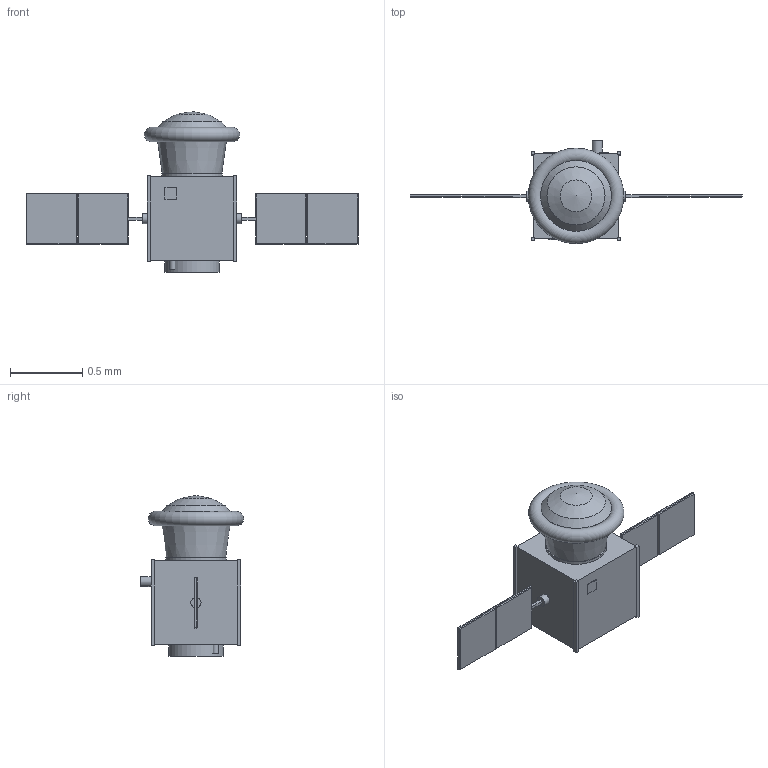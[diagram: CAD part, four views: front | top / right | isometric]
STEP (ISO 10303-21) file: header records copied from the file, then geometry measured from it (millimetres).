
FILE_DESCRIPTION(('Open CASCADE Model'),'2;1');
FILE_NAME('Open CASCADE Shape Model','2026-10-04T13:15:39',('Author'),( 'Open CASCADE'),'Open CASCADE STEP processor 7.9','Open CASCADE 7.9' ,'Unknown');
FILE_SCHEMA(('AUTOMOTIVE_DESIGN { 1 0 10303 214 1 1 1 1 }'));
Length unit declared in the file: millimetre
Products named in the file (45): SP-PLT; capsule_backshell; nose; heat_shield_packed; sample_drawer; sample_cassette_1; sample_cassette_2; sample_cassette_3; optical_window; capsule_avionics_and_hold_battery; parachute_canister; recovery_beacon; separation_interface; service_module_structure; corner_rail_-X-Y; corner_rail_-X+Y; corner_rail_+X-Y; corner_rail_+X+Y; radiator_+Y_face; experiment_instruments_microscope_pumps_reservoirs; propellant_tank_LMP-103S; battery; on-board_computer_and_radios; reaction_wheel_1; reaction_wheel_2; reaction_wheel_3; magnetorquer_1; magnetorquer_2; star_tracker; S-band_antenna; 22_N_thruster_1; 22_N_thruster_2; launch_separation_ring; array_drive_-X; yoke_-X; solar_panel_-X1; panel_frame_-X1; solar_panel_-X2; panel_frame_-X2; array_drive_+X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
Assembly tree (44 placements, depth 2):
  SP-PLT
    capsule_backshell
    nose
    heat_shield_packed
    sample_drawer
    sample_cassette_1
    sample_cassette_2
    sample_cassette_3
    optical_window
    capsule_avionics_and_hold_battery
    parachute_canister
    recovery_beacon
    separation_interface
    service_module_structure
    corner_rail_-X-Y
    corner_rail_-X+Y
    corner_rail_+X-Y
    corner_rail_+X+Y
    radiator_+Y_face
    experiment_instruments_microscope_pumps_reservoirs
    propellant_tank_LMP-103S
    battery
    on-board_computer_and_radios
    reaction_wheel_1
    reaction_wheel_2
    reaction_wheel_3
    magnetorquer_1
    magnetorquer_2
    star_tracker
    S-band_antenna
    22_N_thruster_1
    22_N_thruster_2
    launch_separation_ring
    array_drive_-X
    yoke_-X
    solar_panel_-X1
    panel_frame_-X1
    solar_panel_-X2
    panel_frame_-X2
    array_drive_+X
    yoke_+X
    solar_panel_+X1
    panel_frame_+X1
    solar_panel_+X2
    panel_frame_+X2
Bounding box: 2.3 x 0.72 x 1.12 mm (x, y, z)
Volume: 0.3 mm3; surface area: 8.5 mm2
Topology: 44 solids, 44 shells, 209 faces, 374 edges, 248 vertices
Faces by surface type: plane 187, cylinder 16, cone 4, torus 1, sphere 1
Full cylindrical faces by diameter (mm): 0.024 x2, 0.04 x1, 0.045 x2, 0.07 x3, 0.09 x3, 0.14 x1, 0.341 x1, 0.381 x1, 0.423 x1, 0.491 x1
Entity records: 10875 total; most frequent: DIRECTION 1656, CARTESIAN_POINT 1611, LINE 1039, VECTOR 1039, ORIENTED_EDGE 740, PCURVE 740, DEFINITIONAL_REPRESENTATION 740, EDGE_CURVE 370
